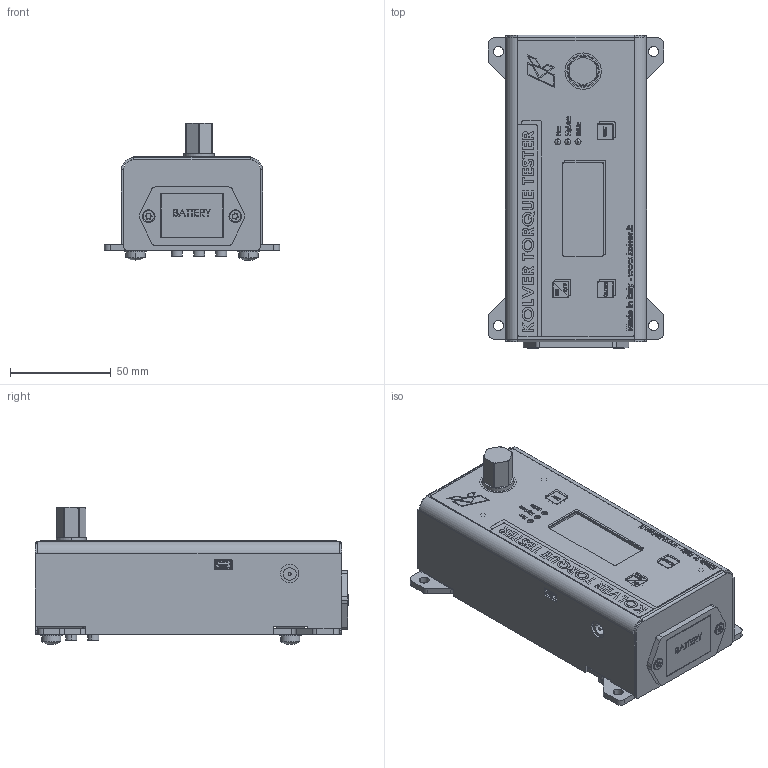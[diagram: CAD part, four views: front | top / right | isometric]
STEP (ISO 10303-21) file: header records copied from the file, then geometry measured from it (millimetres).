
FILE_DESCRIPTION (( 'STEP AP214' ), '1' );
FILE_NAME ('Mini_K_S_USB.STEP', '2017-07-17T12:14:37', ( '' ), ( '' ), 'SwSTEP 2.0', 'SolidWorks 2017', '' );
FILE_SCHEMA (( 'AUTOMOTIVE_DESIGN' ));
Length unit declared in the file: millimetre
Products named in the file (1): Mini_K_S_USB
Bounding box: 87 x 155.5 x 68 mm (x, y, z)
Volume: 142286.5 mm3; surface area: 150832.6 mm2
Topology: 45 solids, 45 shells, 2572 faces, 6705 edges, 4348 vertices
Faces by surface type: plane 1466, cylinder 666, bspline 290, torus 86, cone 56, sphere 8
Entity records: 121701 total; most frequent: CARTESIAN_POINT 30446, ORIENTED_EDGE 13354, DIRECTION 12107, EDGE_CURVE 6677, LINE 4553, VECTOR 4553, VERTEX_POINT 4348, AXIS2_PLACEMENT_3D 3777
